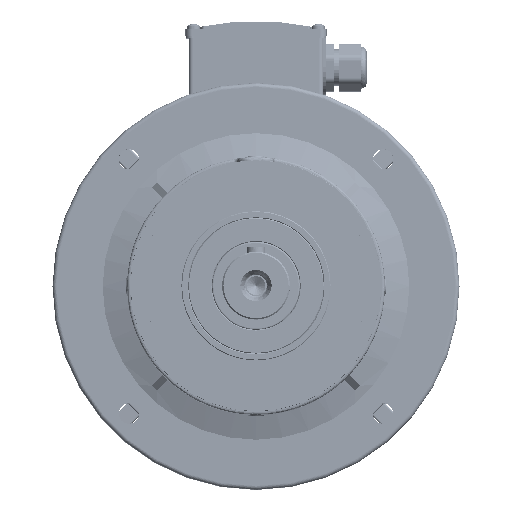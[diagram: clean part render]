
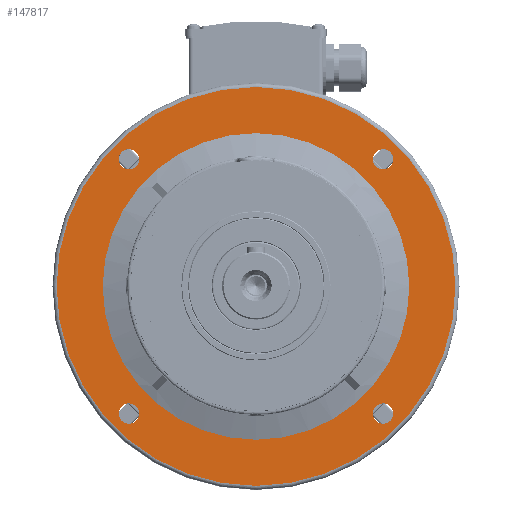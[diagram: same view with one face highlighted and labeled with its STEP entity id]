
A CAD part, top view. The second image highlights one B-rep face of the part: STEP entity #147817.
In plain terms, the highlighted planar face has unit normal (0, 0, 1).
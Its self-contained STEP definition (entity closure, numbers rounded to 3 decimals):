
#7948 = DIRECTION ( 'NONE',  ( 0., 0., -1. ) ) ;
#7965 = CARTESIAN_POINT ( 'NONE',  ( 93.692, -93.692, -77.5 ) ) ;
#8007 = DIRECTION ( 'NONE',  ( -1., 0., 0. ) ) ;
#8501 = CARTESIAN_POINT ( 'NONE',  ( 93.692, 93.692, -77.5 ) ) ;
#8563 = DIRECTION ( 'NONE',  ( 0., 0., -1. ) ) ;
#8584 = DIRECTION ( 'NONE',  ( -1., 0., 0. ) ) ;
#69819 = ORIENTED_EDGE ( 'NONE', *, *, #222876, .T. ) ;
#69837 = ORIENTED_EDGE ( 'NONE', *, *, #220069, .T. ) ;
#69860 = ORIENTED_EDGE ( 'NONE', *, *, #222643, .T. ) ;
#69899 = ORIENTED_EDGE ( 'NONE', *, *, #220072, .T. ) ;
#69927 = ORIENTED_EDGE ( 'NONE', *, *, #222639, .T. ) ;
#69951 = ORIENTED_EDGE ( 'NONE', *, *, #220372, .F. ) ;
#70037 = ORIENTED_EDGE ( 'NONE', *, *, #222998, .T. ) ;
#70056 = ORIENTED_EDGE ( 'NONE', *, *, #220224, .T. ) ;
#70069 = ORIENTED_EDGE ( 'NONE', *, *, #220535, .T. ) ;
#70089 = ORIENTED_EDGE ( 'NONE', *, *, #222658, .T. ) ;
#70109 = ORIENTED_EDGE ( 'NONE', *, *, #220025, .T. ) ;
#70271 = ORIENTED_EDGE ( 'NONE', *, *, #222682, .F. ) ;
#146960 = CARTESIAN_POINT ( 'NONE',  ( 86.192, 93.692, -77.5 ) ) ;
#147256 = CARTESIAN_POINT ( 'NONE',  ( 0., 147., -77.5 ) ) ;
#147262 = CARTESIAN_POINT ( 'NONE',  ( 0., -147., -77.5 ) ) ;
#147273 = CARTESIAN_POINT ( 'NONE',  ( 0., -113., -77.5 ) ) ;
#147439 = CARTESIAN_POINT ( 'NONE',  ( 0., 113., -77.5 ) ) ;
#147757 = CARTESIAN_POINT ( 'NONE',  ( 101.192, 93.692, -77.5 ) ) ;
#147786 = CARTESIAN_POINT ( 'NONE',  ( -86.192, 93.692, -77.5 ) ) ;
#147817 = ADVANCED_FACE ( 'NONE', ( #173519, #173958, #173551, #173807, #173816, #173976 ), #162673, .T. ) ;
#147832 = CARTESIAN_POINT ( 'NONE',  ( 86.192, -93.692, -77.5 ) ) ;
#147847 = CARTESIAN_POINT ( 'NONE',  ( -86.192, -93.692, -77.5 ) ) ;
#147946 = CARTESIAN_POINT ( 'NONE',  ( -101.192, -93.692, -77.5 ) ) ;
#147964 = CARTESIAN_POINT ( 'NONE',  ( -101.192, 93.692, -77.5 ) ) ;
#147970 = CARTESIAN_POINT ( 'NONE',  ( 101.192, -93.692, -77.5 ) ) ;
#153553 = AXIS2_PLACEMENT_3D ( 'NONE', #162764, #162790, #162748 ) ;
#156709 = EDGE_LOOP ( 'NONE', ( #70271, #69951 ) ) ;
#156977 = EDGE_LOOP ( 'NONE', ( #70069, #69927 ) ) ;
#157108 = EDGE_LOOP ( 'NONE', ( #69860, #69899 ) ) ;
#157130 = EDGE_LOOP ( 'NONE', ( #69819, #69837 ) ) ;
#158939 = EDGE_LOOP ( 'NONE', ( #70037, #70109 ) ) ;
#159047 = EDGE_LOOP ( 'NONE', ( #70089, #70056 ) ) ;
#162673 = PLANE ( 'NONE',  #153553 ) ;
#162748 = DIRECTION ( 'NONE',  ( 0., 1., 0. ) ) ;
#162764 = CARTESIAN_POINT ( 'NONE',  ( 0., 113., -77.5 ) ) ;
#162790 = DIRECTION ( 'NONE',  ( 0., 0., 1. ) ) ;
#173519 = FACE_BOUND ( 'NONE', #157130, .T. ) ;
#173551 = FACE_BOUND ( 'NONE', #157108, .T. ) ;
#173807 = FACE_BOUND ( 'NONE', #158939, .T. ) ;
#173816 = FACE_OUTER_BOUND ( 'NONE', #156977, .T. ) ;
#173958 = FACE_BOUND ( 'NONE', #159047, .T. ) ;
#173976 = FACE_BOUND ( 'NONE', #156709, .T. ) ;
#220025 = EDGE_CURVE ( 'NONE', #274381, #268795, #286128, .T. ) ;
#220069 = EDGE_CURVE ( 'NONE', #274499, #274368, #286175, .T. ) ;
#220072 = EDGE_CURVE ( 'NONE', #274391, #274426, #286176, .T. ) ;
#220224 = EDGE_CURVE ( 'NONE', #274384, #274446, #286285, .T. ) ;
#220372 = EDGE_CURVE ( 'NONE', #269145, #268991, #286048, .T. ) ;
#220535 = EDGE_CURVE ( 'NONE', #269019, #268987, #309643, .T. ) ;
#222639 = EDGE_CURVE ( 'NONE', #268987, #269019, #312915, .T. ) ;
#222643 = EDGE_CURVE ( 'NONE', #274426, #274391, #313021, .T. ) ;
#222658 = EDGE_CURVE ( 'NONE', #274446, #274384, #313036, .T. ) ;
#222682 = EDGE_CURVE ( 'NONE', #268991, #269145, #313026, .T. ) ;
#222876 = EDGE_CURVE ( 'NONE', #274368, #274499, #312765, .T. ) ;
#222998 = EDGE_CURVE ( 'NONE', #268795, #274381, #313051, .T. ) ;
#268795 = VERTEX_POINT ( 'NONE', #146960 ) ;
#268987 = VERTEX_POINT ( 'NONE', #147262 ) ;
#268991 = VERTEX_POINT ( 'NONE', #147273 ) ;
#269019 = VERTEX_POINT ( 'NONE', #147256 ) ;
#269145 = VERTEX_POINT ( 'NONE', #147439 ) ;
#274368 = VERTEX_POINT ( 'NONE', #147832 ) ;
#274381 = VERTEX_POINT ( 'NONE', #147757 ) ;
#274384 = VERTEX_POINT ( 'NONE', #147847 ) ;
#274391 = VERTEX_POINT ( 'NONE', #147786 ) ;
#274426 = VERTEX_POINT ( 'NONE', #147964 ) ;
#274446 = VERTEX_POINT ( 'NONE', #147946 ) ;
#274499 = VERTEX_POINT ( 'NONE', #147970 ) ;
#275210 = AXIS2_PLACEMENT_3D ( 'NONE', #303304, #303351, #303301 ) ;
#275240 = AXIS2_PLACEMENT_3D ( 'NONE', #303364, #303339, #303366 ) ;
#275293 = AXIS2_PLACEMENT_3D ( 'NONE', #303222, #303233, #303202 ) ;
#275360 = AXIS2_PLACEMENT_3D ( 'NONE', #314607, #314624, #314496 ) ;
#275422 = AXIS2_PLACEMENT_3D ( 'NONE', #304261, #304245, #304250 ) ;
#275434 = AXIS2_PLACEMENT_3D ( 'NONE', #305168, #305197, #305172 ) ;
#275819 = AXIS2_PLACEMENT_3D ( 'NONE', #332278, #332364, #332407 ) ;
#275821 = AXIS2_PLACEMENT_3D ( 'NONE', #332375, #332419, #332562 ) ;
#275823 = AXIS2_PLACEMENT_3D ( 'NONE', #8501, #8563, #8584 ) ;
#275834 = AXIS2_PLACEMENT_3D ( 'NONE', #7965, #7948, #8007 ) ;
#275877 = AXIS2_PLACEMENT_3D ( 'NONE', #332399, #332359, #332316 ) ;
#275888 = AXIS2_PLACEMENT_3D ( 'NONE', #332326, #332385, #332357 ) ;
#286048 = CIRCLE ( 'NONE', #275434, 113. ) ;
#286128 = CIRCLE ( 'NONE', #275293, 7.5 ) ;
#286175 = CIRCLE ( 'NONE', #275240, 7.5 ) ;
#286176 = CIRCLE ( 'NONE', #275210, 7.5 ) ;
#286285 = CIRCLE ( 'NONE', #275422, 7.5 ) ;
#303202 = DIRECTION ( 'NONE',  ( -1., 0., 0. ) ) ;
#303222 = CARTESIAN_POINT ( 'NONE',  ( 93.692, 93.692, -77.5 ) ) ;
#303233 = DIRECTION ( 'NONE',  ( 0., 0., -1. ) ) ;
#303301 = DIRECTION ( 'NONE',  ( -1., 0., 0. ) ) ;
#303304 = CARTESIAN_POINT ( 'NONE',  ( -93.692, 93.692, -77.5 ) ) ;
#303339 = DIRECTION ( 'NONE',  ( 0., 0., -1. ) ) ;
#303351 = DIRECTION ( 'NONE',  ( 0., 0., -1. ) ) ;
#303364 = CARTESIAN_POINT ( 'NONE',  ( 93.692, -93.692, -77.5 ) ) ;
#303366 = DIRECTION ( 'NONE',  ( -1., 0., 0. ) ) ;
#304245 = DIRECTION ( 'NONE',  ( 0., 0., -1. ) ) ;
#304250 = DIRECTION ( 'NONE',  ( -1., 0., 0. ) ) ;
#304261 = CARTESIAN_POINT ( 'NONE',  ( -93.692, -93.692, -77.5 ) ) ;
#305168 = CARTESIAN_POINT ( 'NONE',  ( 0., 0., -77.5 ) ) ;
#305172 = DIRECTION ( 'NONE',  ( 0., 1., 0. ) ) ;
#305197 = DIRECTION ( 'NONE',  ( 0., 0., 1. ) ) ;
#309643 = CIRCLE ( 'NONE', #275360, 147. ) ;
#312765 = CIRCLE ( 'NONE', #275834, 7.5 ) ;
#312915 = CIRCLE ( 'NONE', #275877, 147. ) ;
#313021 = CIRCLE ( 'NONE', #275819, 7.5 ) ;
#313026 = CIRCLE ( 'NONE', #275821, 113. ) ;
#313036 = CIRCLE ( 'NONE', #275888, 7.5 ) ;
#313051 = CIRCLE ( 'NONE', #275823, 7.5 ) ;
#314496 = DIRECTION ( 'NONE',  ( 0., 1., 0. ) ) ;
#314607 = CARTESIAN_POINT ( 'NONE',  ( 0., 0., -77.5 ) ) ;
#314624 = DIRECTION ( 'NONE',  ( 0., 0., 1. ) ) ;
#332278 = CARTESIAN_POINT ( 'NONE',  ( -93.692, 93.692, -77.5 ) ) ;
#332316 = DIRECTION ( 'NONE',  ( 0., 1., 0. ) ) ;
#332326 = CARTESIAN_POINT ( 'NONE',  ( -93.692, -93.692, -77.5 ) ) ;
#332357 = DIRECTION ( 'NONE',  ( -1., 0., 0. ) ) ;
#332359 = DIRECTION ( 'NONE',  ( 0., 0., 1. ) ) ;
#332364 = DIRECTION ( 'NONE',  ( 0., 0., -1. ) ) ;
#332375 = CARTESIAN_POINT ( 'NONE',  ( 0., 0., -77.5 ) ) ;
#332385 = DIRECTION ( 'NONE',  ( 0., 0., -1. ) ) ;
#332399 = CARTESIAN_POINT ( 'NONE',  ( 0., 0., -77.5 ) ) ;
#332407 = DIRECTION ( 'NONE',  ( -1., 0., 0. ) ) ;
#332419 = DIRECTION ( 'NONE',  ( 0., 0., 1. ) ) ;
#332562 = DIRECTION ( 'NONE',  ( 0., 1., 0. ) ) ;
